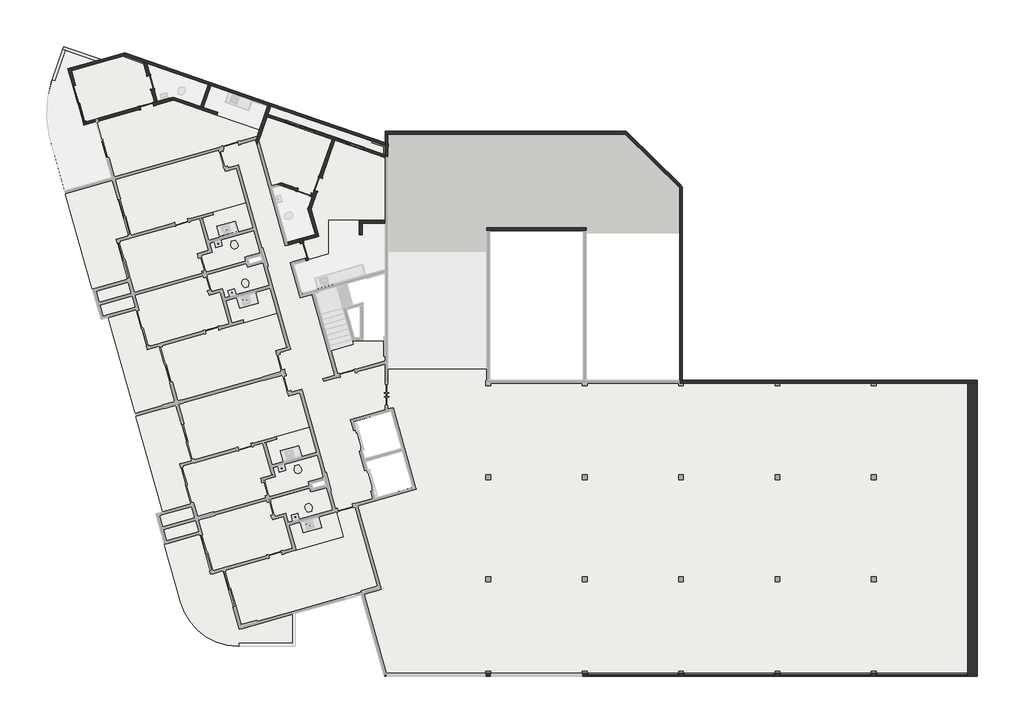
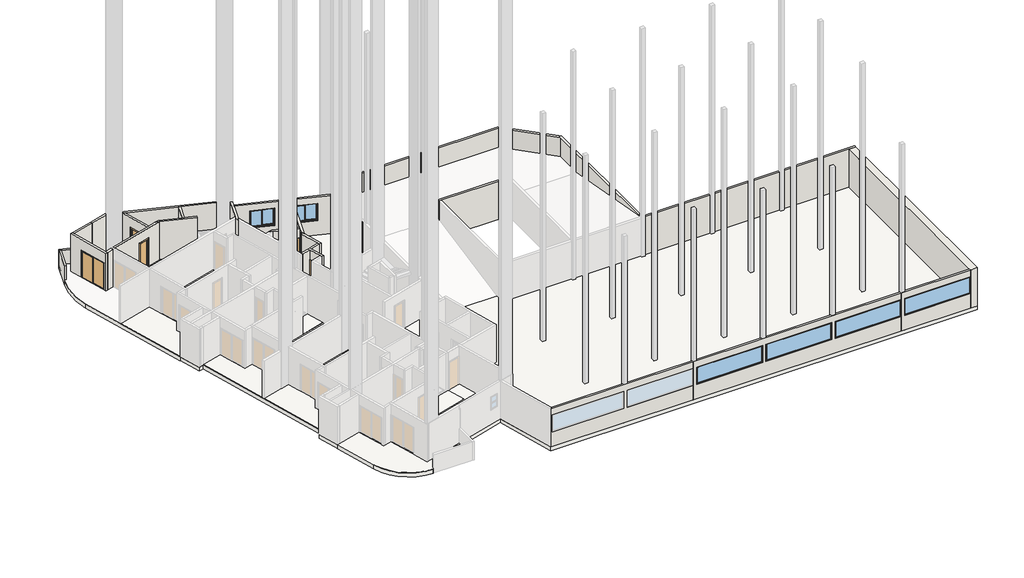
# One storey, part 3 of 4: 30 walls, 13 slabs, 6 doors, 6 windows.
"""IFC4 building model written with IfcOpenShell, lengths in millimetres."""

from ifc_helpers import new_model, si_unit, point, frame, frame_2d, origin, place, context, project, spatial, polyline, circle_curve, trimmed, segment, composite_curve, outline, extrude, faceted_brep, transform, mapped, element, save
from components import p2_80cm_9d4be4ef, p3_70cm_ef4d15e3, p3_70cm_0a698c7c, p4_correr_200cm_eaaa0877, jx_160cm_e9e36a0c, m_fixo1_jf_4_75m_a83b1cd6

model = new_model("IFC4")

# Units and contexts
model_context = context("Model", 3, world=origin())
ifc_project = project(units=[si_unit("LENGTHUNIT", "METRE", prefix="MILLI")], contexts=[model_context])

# Site, building, storey
site = spatial("IfcSite", under=ifc_project)
building = spatial("IfcBuilding", under=site)
storey = spatial("IfcBuildingStorey", under=building, Name="Garagem 5", Elevation=36250.0)

# Doors
placement = place(None, origin())
p2_80cm_shape = p2_80cm_9d4be4ef(model_context)
element("IfcDoor", 1, ObjectType="M_Folha única1 : P2 - 80CM", at=placement, inside=storey, context=model_context, shape_type="MappedRepresentation", body=[
    mapped(p2_80cm_shape, transform((-79349.4097406, 25479.1041247, 36250.0), x_axis=(-0.27176796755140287, 0.962362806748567, 0.0), y_axis=(-0.962362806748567, -0.27176796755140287, 0.0), z_axis=(0.0, 0.0, 1.0))),
])
p3_70cm_shape = p3_70cm_ef4d15e3(model_context)
element("IfcDoor", 2, ObjectType="M_Folha única1 : P3 - 70CM", at=placement, inside=storey, context=model_context, shape_type="MappedRepresentation", body=[
    mapped(p3_70cm_shape, transform((-87513.806232, 32980.5300491, 36250.0), x_axis=(0.9623628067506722, 0.2717679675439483, 0.0), y_axis=(-0.2717679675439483, 0.9623628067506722, 0.0), z_axis=(0.0, 0.0, 1.0))),
])
p3_70cm_2_shape = p3_70cm_0a698c7c(model_context)
element("IfcDoor", 3, ObjectType="M_Folha única1 : P3 - 70CM", at=placement, inside=storey, context=model_context, shape_type="MappedRepresentation", body=[
    mapped(p3_70cm_2_shape, transform((-87314.304722, 34205.8663896, 36250.0), x_axis=(-0.2717679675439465, 0.9623628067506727, 0.0), y_axis=(-0.9623628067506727, -0.2717679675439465, 0.0), z_axis=(0.0, 0.0, 1.0))),
])
element("IfcDoor", 4, ObjectType="M_Folha única1 : P3 - 70CM", at=placement, inside=storey, context=model_context, shape_type="MappedRepresentation", body=[
    mapped(p3_70cm_2_shape, transform((-79346.1223746, 28509.6973665, 36250.0), x_axis=(0.9449109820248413, -0.32732741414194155, 0.0), y_axis=(0.32732741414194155, 0.9449109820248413, 0.0), z_axis=(0.0, 0.0, 1.0))),
])
element("IfcDoor", 5, ObjectType="M_Folha única1 : P3 - 70CM", at=placement, inside=storey, context=model_context, shape_type="MappedRepresentation", body=[
    mapped(p3_70cm_2_shape, transform((-78626.5662556, 28921.8732895, 36250.0), x_axis=(-0.32732741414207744, -0.9449109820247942, 0.0), y_axis=(0.9449109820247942, -0.32732741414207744, 0.0), z_axis=(0.0, 0.0, 1.0))),
])
p4_correr_200cm_shape = p4_correr_200cm_eaaa0877(model_context)
element("IfcDoor", 6, ObjectType="Porta de correr dupla envidraçada sem revestimento : P4 - CORRER - 200CM", at=placement, inside=storey, context=model_context, shape_type="MappedRepresentation", body=[
    mapped(p4_correr_200cm_shape, transform((-91005.8131296, 33111.4415743, 36250.0), x_axis=(0.2717679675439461, -0.9623628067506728, 0.0), y_axis=(0.9623628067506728, 0.2717679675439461, 0.0), z_axis=(0.0, 0.0, 1.0))),
])

# Slabs
element("IfcSlab", 7, ObjectType="TZ_Piso de Áreas Molhadas", at=placement, inside=storey, context=model_context, shape_type="SweptSolid", body=[
    extrude(outline(polyline([(-88472.3695802, 26241.3805647), (-89094.084177, 26065.8104874), (-88509.7830468, 23996.7304529), (-90325.6378284, 23483.9392686), (-91725.2428613, 28440.1077234), (-89287.6734828, 29128.468985), (-88472.3695802, 26241.3805647)])), frame((0.0, 0.0, 36250.0), z_axis=(0.0, 0.0, 1.0), x_axis=(1.0, 0.0, 0.0)), (0.0, 0.0, 1.0), 20.0),
])
element("IfcSlab", 8, ObjectType="TZ_Piso de Áreas Molhadas", at=placement, inside=storey, context=model_context, shape_type="SweptSolid", body=[
    extrude(outline(polyline([(-86855.3501733, 20515.3218645), (-86040.0462707, 17628.2334443), (-88109.1263052, 17043.9323141), (-89508.731338, 22000.1007688), (-88061.3659003, 22408.8318218), (-87477.0647701, 20339.7517872), (-86855.3501733, 20515.3218645)])), frame((0.0, 0.0, 36250.0), z_axis=(0.0, 0.0, 1.0), x_axis=(1.0, 0.0, 0.0)), (0.0, 0.0, 1.0), 20.0),
])
element("IfcSlab", 9, ObjectType="TZ_Piso de Áreas Molhadas", at=placement, inside=storey, context=model_context, shape_type="SweptSolid", body=[
    extrude(outline(polyline([(-81949.8925784, 26524.6420501), (-81623.7710174, 25369.806682), (-82432.1557751, 25141.5215893), (-82377.8021816, 24949.0490279), (-84456.5058441, 24362.030218), (-84701.0970149, 25228.1567441), (-84123.6793309, 25391.2175246), (-84259.5633146, 25872.398928), (-81949.8925784, 26524.6420501)])), frame((0.0, 0.0, 36250.0), z_axis=(0.0, 0.0, 1.0), x_axis=(1.0, 0.0, 0.0)), (0.0, 0.0, 1.0), 20.0),
])
element("IfcSlab", 10, ObjectType="TZ_Piso de Áreas Molhadas", at=placement, inside=storey, context=model_context, shape_type="SweptSolid", body=[
    extrude(outline(polyline([(-84089.7975819, 27479.0039186), (-82357.5445298, 27968.1862602), (-81990.6577736, 26668.9964711), (-84300.3285098, 26016.753349), (-84626.4500708, 27171.5887171), (-84049.0323868, 27334.6494976), (-84089.7975819, 27479.0039186)])), frame((0.0, 0.0, 36250.0), z_axis=(0.0, 0.0, 1.0), x_axis=(1.0, 0.0, 0.0)), (0.0, 0.0, 1.0), 20.0),
])
element("IfcSlab", 11, ObjectType="TZ_Piso de Áreas Molhadas", at=placement, inside=storey, context=model_context, shape_type="SweptSolid", body=[
    extrude(outline(polyline([(-84171.1494782, 23351.5492709), (-84415.740649, 24217.675797), (-82337.0369864, 24804.6946069), (-82282.6833929, 24612.2220455), (-81474.2986352, 24840.5071383), (-81148.1770742, 23685.6717702), (-83457.8478104, 23033.4286481), (-83593.7317942, 23514.6100514), (-84171.1494782, 23351.5492709)])), frame((0.0, 0.0, 36250.0), z_axis=(0.0, 0.0, 1.0), x_axis=(1.0, 0.0, 0.0)), (0.0, 0.0, 1.0), 20.0),
])
element("IfcSlab", 12, ObjectType="TZ_Piso de Áreas Molhadas", at=placement, inside=storey, context=model_context, shape_type="SweptSolid", body=[
    extrude(outline(composite_curve([segment(polyline([(-79945.4990038, 5119.4122055), (-82713.5540687, 5119.4122055), (-82713.5540687, 4969.4122055), (-82751.3896972, 4969.4122055)]), True, "CONTINUOUS"), segment(trimmed(circle_curve(frame_2d((-82751.3896972, 8069.4122055)), 3100.0), [point((-82751.3896972, 4969.4122055))], [point((-85734.7143981, 7226.9315061))], False, "CARTESIAN"), True, "CONTINUOUS"), segment(polyline([(-85734.7143981, 7226.9315061), (-86588.8282733, 10251.4506708), (-84772.9735093, 10764.2419177), (-84188.6722855, 8695.1618243), (-83566.957766, 8870.7319029), (-82710.8885369, 5839.2889958), (-79945.4990038, 6620.2256515), (-79945.4990038, 5119.4122055)]), True, "CONTINUOUS")], self_intersect=False)), frame((0.0, 0.0, 36250.0), z_axis=(0.0, 0.0, 1.0), x_axis=(1.0, 0.0, 0.0)), (0.0, 0.0, 1.0), 20.0),
])
element("IfcSlab", 13, ObjectType="TZ_Piso de Áreas Molhadas", at=placement, inside=storey, context=model_context, shape_type="SweptSolid", body=[
    extrude(outline(polyline([(-78185.906228, 13195.9171766), (-77859.7846669, 12041.0818085), (-80169.4554031, 11388.8386864), (-80305.3393869, 11870.0200898), (-80882.7570709, 11706.9593092), (-81127.3482417, 12573.0858353), (-79048.6445791, 13160.1046452), (-78994.2909856, 12967.6320839), (-78185.906228, 13195.9171766)])), frame((0.0, 0.0, 36250.0), z_axis=(0.0, 0.0, 1.0), x_axis=(1.0, 0.0, 0.0)), (0.0, 0.0, 1.0), 20.0),
])
element("IfcSlab", 14, ObjectType="TZ_Piso de Áreas Molhadas", at=placement, inside=storey, context=model_context, shape_type="SweptSolid", body=[
    extrude(outline(polyline([(-77307.7782946, 10638.3027935), (-79761.8034518, 9945.2944763), (-80128.690208, 11244.4842654), (-77674.6650508, 11937.4925826), (-77307.7782946, 10638.3027935)])), frame((0.0, 0.0, 36250.0), z_axis=(0.0, 0.0, 1.0), x_axis=(1.0, 0.0, 0.0)), (0.0, 0.0, 1.0), 20.0),
])
element("IfcSlab", 15, ObjectType="TZ_Piso de Áreas Molhadas", at=placement, inside=storey, context=model_context, shape_type="SweptSolid", body=[
    extrude(outline(polyline([(-81107.9410005, 23543.1910314), (-80740.5251229, 22242.1275601), (-82472.778175, 21752.9452185), (-82513.5433702, 21897.2996395), (-83090.9610542, 21734.238859), (-83418.0192411, 22888.8089065), (-81107.9410005, 23543.1910314)])), frame((0.0, 0.0, 36250.0), z_axis=(0.0, 0.0, 1.0), x_axis=(1.0, 0.0, 0.0)), (0.0, 0.0, 1.0), 20.0),
])
element("IfcSlab", 16, ObjectType="TZ_Piso de Áreas Molhadas", at=placement, inside=storey, context=model_context, shape_type="SweptSolid", body=[
    extrude(outline(polyline([(-85183.9771729, 14596.790603), (-85805.6917697, 14421.2205257), (-85221.3906395, 12352.1404912), (-86668.7560772, 11943.4094383), (-88068.36111, 16899.5778931), (-85999.2810755, 17483.8790233), (-85183.9771729, 14596.790603)])), frame((0.0, 0.0, 36250.0), z_axis=(0.0, 0.0, 1.0), x_axis=(1.0, 0.0, 0.0)), (0.0, 0.0, 1.0), 20.0),
])
element("IfcSlab", 17, ObjectType="TZ_Piso de Áreas Molhadas", at=placement, inside=storey, context=model_context, shape_type="SweptSolid", body=[
    extrude(outline(polyline([(-81412.7046076, 13583.5667824), (-80835.2869236, 13746.6275629), (-80971.1709074, 14227.8089663), (-78661.5001712, 14880.0520884), (-78335.3786101, 13725.2167203), (-79143.7633678, 13496.9316276), (-79089.4097743, 13304.4590662), (-81168.1134368, 12717.4402563), (-81412.7046076, 13583.5667824)])), frame((0.0, 0.0, 36250.0), z_axis=(0.0, 0.0, 1.0), x_axis=(1.0, 0.0, 0.0)), (0.0, 0.0, 1.0), 20.0),
])
element("IfcSlab", 18, ObjectType="TZ_Piso de Áreas Molhadas", at=placement, inside=storey, context=model_context, shape_type="SweptSolid", body=[
    extrude(outline(polyline([(-78701.7362448, 15022.5328272), (-81012.8731576, 14371.8995868), (-81338.0576635, 15526.9987554), (-80760.6399795, 15690.059536), (-80801.4051746, 15834.413957), (-79069.1521225, 16323.5962985), (-78701.7362448, 15022.5328272)])), frame((0.0, 0.0, 36250.0), z_axis=(0.0, 0.0, 1.0), x_axis=(1.0, 0.0, 0.0)), (0.0, 0.0, 1.0), 20.0),
])
element("IfcSlab", 19, ObjectType="TZ_Laje 30cm", at=placement, inside=storey, context=model_context, shape_type="SweptSolid", body=[
    extrude(outline(composite_curve([segment(polyline([(-82713.5540687, 4969.4122055), (-82751.3896972, 4969.4122055)]), True, "CONTINUOUS"), segment(trimmed(circle_curve(frame_2d((-82751.3896972, 8069.4122055)), 3100.0), [point((-82751.3896972, 4969.4122055))], [point((-85734.7143981, 7226.9315061))], False, "CARTESIAN"), True, "CONTINUOUS"), segment(polyline([(-85734.7143981, 7226.9315061), (-86588.8282747, 10251.4506758), (-86574.3928326, 10255.5271953), (-87018.7334595, 11828.9903844), (-86664.6795577, 11928.9739962), (-89512.8078575, 22014.5362109), (-89866.8617594, 21914.5525991), (-90311.2023863, 23488.0157882), (-90325.6378284, 23483.9392686), (-92573.2320087, 31442.9384962)]), True, "CONTINUOUS"), segment(trimmed(circle_curve(frame_2d((-87414.5556743, 32622.5665107)), 5291.829908), [point((-92573.2320087, 31442.9384962))], [point((-92426.4466323, 34320.9224218))], False, "CARTESIAN"), True, "CONTINUOUS"), segment(polyline([(-92426.4466323, 34320.9224218), (-92422.0160621, 34333.7123509), (-92403.1178425, 34327.1658026), (-91809.986912, 36039.3839237), (-89899.2062586, 35377.468778), (-88658.6666899, 35727.7929124), (-75015.5036183, 31001.6532295), (-75015.5036183, 19352.5140353), (-69748.6137209, 19352.5140353), (-69748.6137209, 18732.5140353), (-44448.6137209, 18732.5140353), (-44448.6137209, 3431.0495751), (-75180.5270822, 3431.0495751), (-76371.9880656, 7650.1551103), (-79815.4990038, 6677.7193903), (-79815.4990038, 4989.4122055), (-82713.5540687, 4989.4122055), (-82713.5540687, 4969.4122055)]), True, "CONTINUOUS")], self_intersect=False), holes=[polyline([(-81583.0058223, 25225.452261), (-82247.0361589, 25037.9323634), (-82179.094167, 24797.3416617), (-81515.0638304, 24984.8615593), (-81583.0058223, 25225.452261)]), polyline([(-78294.613415, 13580.8622993), (-78958.6437516, 13393.3424017), (-78890.7017597, 13152.7517), (-78226.6714231, 13340.2715976), (-78294.613415, 13580.8622993)]), polyline([(-77952.9130698, 20291.1915783), (-76801.2963825, 20616.4041949), (-76858.5413412, 20819.1154254), (-75147.8282189, 20819.1154254), (-75147.8282189, 24343.0530162), (-78807.9060206, 23309.4595541), (-77952.9130698, 20291.1915783)]), polyline([(-74840.4856705, 17153.3066079), (-76760.3994699, 16611.1295126), (-76221.8794944, 14704.1660107), (-75646.150803, 12665.442005), (-73726.2370035, 13207.6191002), (-74270.7319215, 15135.7405865), (-74840.4856705, 17153.3066079)])]), frame((0.0, 0.0, 35950.0), z_axis=(0.0, 0.0, 1.0), x_axis=(1.0, 0.0, 0.0)), (0.0, 0.0, 1.0), 300.0),
])

# Walls
element("IfcWall", 20, ObjectType="Básica .15 - Externa", at=placement, inside=storey, context=model_context, shape_type="Brep", body=[
    faceted_brep([(-88662.6343714, 35591.588263, 36250.0), (-87688.240739, 35254.0477389, 36250.0), (-87515.4733556, 35194.1992432, 36250.0), (-84326.6881589, 34089.5694606, 36250.0), (-84184.9515116, 34040.4703485, 36250.0), (-81227.2140767, 33015.8780168, 36250.0), (-81226.8582774, 33015.7547641, 36250.0), (-81156.3583355, 32991.3328194, 36250.0), (-81156.3583355, 32991.3328194, 37550.0), (-81085.1216301, 32966.655652, 37550.0), (-81085.1216301, 32966.655652, 38850.0), (-81156.3583355, 32991.3328194, 38850.0), (-81156.3583355, 32991.3328194, 39150.0), (-81226.8582774, 33015.7547641, 39150.0), (-84184.9515116, 34040.4703485, 39150.0), (-84326.6881589, 34089.5694606, 39150.0), (-87515.4733556, 35194.1992432, 39150.0), (-87688.240739, 35254.0477389, 39150.0), (-88662.6343714, 35591.588263, 39150.0), (-88658.0562773, 35748.7474739, 36250.0), (-88658.0562773, 35748.7474739, 39150.0), (-81107.2592234, 33133.0694667, 39150.0), (-81107.2592234, 33133.0694667, 38850.0), (-81036.022518, 33108.3922993, 38850.0), (-81036.022518, 33108.3922993, 37550.0), (-81107.2592234, 33133.0694667, 37550.0), (-81107.2592234, 33133.0694667, 36250.0), (-81178.1401317, 33157.6233823, 36250.0)], [[[0, 1, 2, 3, 4, 5, 6, 7, 8, 9, 10, 11, 12, 13, 14, 15, 16, 17, 18]], [[19, 20, 21, 22, 23, 24, 25, 26, 27]], [[7, 6, 5, 4, 3, 2, 1, 0, 19, 27, 26]], [[18, 17, 16, 15, 14, 13, 12, 21, 20]], [[0, 18, 20, 19]], [[8, 7, 26, 25]], [[24, 9, 8, 25]], [[12, 11, 22, 21]], [[22, 11, 10, 23]], [[10, 9, 24, 23]]]),
])
element("IfcWall", 21, ObjectType="Básica .15 -  Interna", at=placement, inside=storey, context=model_context, shape_type="Brep", body=[
    faceted_brep([(-81789.2550074, 30934.0017027, 36250.0), (-81703.3880158, 31181.8778654, 36250.0), (-81272.8781344, 32424.6503839, 36250.0), (-81223.7790223, 32566.3870312, 36250.0), (-81085.1216301, 32966.655652, 36250.0), (-81085.1216301, 32966.655652, 37550.0), (-81085.1216301, 32966.655652, 38850.0), (-81085.1216301, 32966.655652, 39150.0), (-81223.7790223, 32566.3870312, 39150.0), (-81272.8781344, 32424.6503839, 39150.0), (-81703.3880158, 31181.8778654, 39150.0), (-81789.2550074, 30934.0017027, 39150.0), (-81860.5472267, 31186.4559595, 36250.0), (-81860.5472267, 31186.4559595, 39150.0), (-81845.4155775, 31230.1371819, 39150.0), (-81785.5670817, 31402.9045654, 39150.0), (-81226.8582774, 33015.7547641, 39150.0), (-81226.8582774, 33015.7547641, 36250.0), (-81785.5670817, 31402.9045654, 36250.0), (-81845.4155775, 31230.1371819, 36250.0), (-81156.3583355, 32991.3328194, 36250.0), (-81085.4774271, 32966.7789039, 36250.0), (-81156.3583355, 32991.3328194, 39150.0)], [[[0, 1, 2, 3, 4, 5, 6, 7, 8, 9, 10, 11]], [[12, 13, 14, 15, 16, 17, 18, 19]], [[4, 3, 2, 1, 0, 12, 19, 18, 17, 20, 21]], [[11, 10, 9, 8, 7, 22, 16, 15, 14, 13]], [[0, 11, 13, 12]], [[4, 21, 20, 17, 16, 22, 7, 6, 5]]]),
])
element("IfcWall", 22, ObjectType="Básica .15 -  Interna", at=placement, inside=storey, context=model_context, shape_type="Brep", body=[
    faceted_brep([(-91449.9950574, 34960.3135045, 39150.0), (-91409.2298622, 34815.9590835, 39150.0), (-90661.8679515, 32169.4613651, 39150.0), (-90621.1027564, 32025.1069441, 39150.0), (-90621.1027564, 32025.1069441, 36250.0), (-90661.8679515, 32169.4613651, 36250.0), (-90661.8679515, 32169.4613651, 38350.0), (-91205.4038866, 34094.1869786, 38350.0), (-91205.4038866, 34094.1869786, 36250.0), (-91409.2298622, 34815.9590835, 36250.0), (-91449.9950574, 34960.3135045, 36250.0), (-90765.4571774, 31984.341749, 39150.0), (-91594.3494784, 34919.5483093, 39150.0), (-91594.3494784, 34919.5483093, 36250.0), (-91349.7583076, 34053.4217835, 36250.0), (-91349.7583076, 34053.4217835, 38350.0), (-90806.2223725, 32128.69617, 38350.0), (-90806.2223725, 32128.69617, 36250.0), (-90765.4571774, 31984.341749, 36250.0)], [[[0, 1, 2, 3, 4, 5, 6, 7, 8, 9, 10]], [[11, 12, 13, 14, 15, 16, 17, 18]], [[4, 18, 17, 5]], [[13, 10, 9, 8, 14]], [[3, 2, 1, 0, 12, 11]], [[4, 3, 11, 18]], [[16, 6, 5, 17]], [[6, 16, 15, 7]], [[7, 15, 14, 8]], [[0, 10, 13, 12]]]),
])
element("IfcWall", 23, ObjectType="Básica .15 - Externa", at=placement, inside=storey, context=model_context, shape_type="Brep", body=[
    faceted_brep([(-91871.4376954, 35923.0920443, 35950.0), (-91729.7010481, 35873.9929322, 35950.0), (-90151.0501028, 35327.1311202, 35950.0), (-90151.0501028, 35327.1311202, 37350.0), (-91729.7010481, 35873.9929322, 37350.0), (-91871.4376954, 35923.0920443, 37350.0), (-91822.3385833, 36064.8286916, 35950.0), (-91822.3385833, 36064.8286916, 37350.0), (-89898.595846, 35398.4233395, 37350.0), (-89898.595846, 35398.4233395, 35950.0)], [[[0, 1, 2, 3, 4, 5]], [[6, 7, 8, 9]], [[2, 1, 0, 6, 9]], [[5, 4, 3, 8, 7]], [[0, 5, 7, 6]], [[3, 2, 9, 8]]]),
])
element("IfcWall", 24, ObjectType="Básica .15 - Externa", at=placement, inside=storey, context=model_context, shape_type="SweptSolid", body=[
    extrude(outline(polyline([(-91729.7010481, 35873.9929322), (-92280.2794148, 34284.6132387), (-92422.0160621, 34333.7123509), (-91871.4376954, 35923.0920443), (-91729.7010481, 35873.9929322)])), frame((0.0, 0.0, 35950.0), z_axis=(0.0, 0.0, 1.0), x_axis=(1.0, 0.0, 0.0)), (0.0, 0.0, 1.0), 1400.0),
])
element("IfcWall", 25, ObjectType="Básica .15 -  Interna", at=placement, inside=storey, context=model_context, shape_type="Brep", body=[
    faceted_brep([(-79598.23613, 26084.2573515, 36250.0), (-79557.4709349, 25939.9029305, 36250.0), (-79530.2941381, 25843.6666498, 36250.0), (-79530.2941381, 25843.6666498, 38350.0), (-79312.8797641, 25073.7764044, 38350.0), (-79312.8797641, 25073.7764044, 36250.0), (-79272.1145689, 24929.4219834, 36250.0), (-79272.1145689, 24929.4219834, 39150.0), (-79312.8797641, 25073.7764044, 39150.0), (-79557.4709349, 25939.9029305, 39150.0), (-79598.23613, 26084.2573515, 39150.0), (-79385.9397171, 25884.4318449, 38350.0), (-79385.9397171, 25884.4318449, 36250.0), (-79413.1165138, 25980.6681256, 36250.0), (-79453.881709, 26125.0225466, 36250.0), (-79453.881709, 26125.0225466, 39150.0), (-79413.1165138, 25980.6681256, 39150.0), (-79127.7601479, 24970.1871785, 39150.0), (-79127.7601479, 24970.1871785, 36250.0), (-79168.5253431, 25114.5415995, 36250.0), (-79168.5253431, 25114.5415995, 38350.0)], [[[0, 1, 2, 3, 4, 5, 6, 7, 8, 9, 10]], [[11, 12, 13, 14, 15, 16, 17, 18, 19, 20]], [[19, 18, 6, 5]], [[14, 13, 12, 2, 1, 0]], [[10, 9, 8, 7, 17, 16, 15]], [[7, 6, 18, 17]], [[0, 10, 15, 14]], [[3, 2, 12, 11]], [[4, 3, 11, 20]], [[5, 4, 20, 19]]]),
])
element("IfcWall", 26, ObjectType="Básica .15 - Externa", at=placement, inside=storey, context=model_context, shape_type="SweptSolid", body=[
    extrude(outline(polyline([(-89921.2674906, 35392.0209445), (-88658.0562773, 35748.7474739), (-88662.6343714, 35591.588263), (-89880.5022955, 35247.6665235), (-89921.2674906, 35392.0209445)])), frame((0.0, 0.0, 36250.0), z_axis=(0.0, 0.0, 1.0), x_axis=(1.0, 0.0, 0.0)), (0.0, 0.0, 1.0), 2900.0),
])
element("IfcWall", 27, ObjectType="Básica .15 -  Interna", at=placement, inside=storey, context=model_context, shape_type="Brep", body=[
    faceted_brep([(-90184.5077758, 32304.2662473, 36250.0), (-90661.8679515, 32169.4613651, 36250.0), (-90661.8679515, 32169.4613651, 38350.0), (-90661.8679515, 32169.4613651, 39150.0), (-90184.5077758, 32304.2662473, 39150.0), (-90143.7425806, 32159.9118263, 36250.0), (-90143.7425806, 32159.9118263, 38350.0), (-90143.7425806, 32159.9118263, 39150.0), (-90621.1027564, 32025.1069441, 39150.0), (-90621.1027564, 32025.1069441, 36250.0)], [[[0, 1, 2, 3, 4]], [[5, 6, 7, 8, 9]], [[1, 0, 5, 9]], [[4, 3, 8, 7]], [[0, 4, 7, 6, 5]], [[3, 2, 1, 9, 8]]]),
])
element("IfcWall", 28, ObjectType="Básica .15 -  Interna", at=placement, inside=storey, context=model_context, shape_type="SweptSolid", body=[
    extrude(outline(polyline([(-79557.4709349, 25939.9029305), (-80173.9123452, 25765.821983), (-80214.6775403, 25910.176404), (-79598.23613, 26084.2573515), (-79557.4709349, 25939.9029305)])), frame((0.0, 0.0, 36250.0), z_axis=(0.0, 0.0, 1.0), x_axis=(1.0, 0.0, 0.0)), (0.0, 0.0, 1.0), 2900.0),
])
element("IfcWall", 29, ObjectType="Básica .15 -  Interna", at=placement, inside=storey, context=model_context, shape_type="Brep", body=[
    faceted_brep([(-81272.8781344, 32424.6503839, 36250.0), (-77897.5766162, 31255.4093243, 36250.0), (-77755.8399689, 31206.3102121, 36250.0), (-75147.8282189, 30302.8666514, 36250.0), (-75147.8282189, 30302.8666514, 39150.0), (-77755.8399689, 31206.3102121, 39150.0), (-77897.5766162, 31255.4093243, 39150.0), (-81272.8781344, 32424.6503839, 39150.0), (-78829.2985897, 31578.1679228, 37350.0), (-80341.1561609, 32101.8917854, 37350.0), (-80341.1561609, 32101.8917854, 38650.0), (-78829.2985897, 31578.1679228, 38650.0), (-76243.9823976, 30682.5863495, 37350.0), (-77755.8399689, 31206.3102121, 37350.0), (-77755.8399689, 31206.3102121, 38650.0), (-76243.9823976, 30682.5863495, 38650.0), (-81223.7790223, 32566.3870312, 36250.0), (-81223.7790223, 32566.3870312, 39150.0), (-75147.8282189, 30461.6117638, 39150.0), (-75147.8282189, 30461.6117638, 36250.0), (-78780.1994776, 31719.9045701, 37350.0), (-78780.1994776, 31719.9045701, 38650.0), (-80292.0570488, 32243.6284327, 38650.0), (-80292.0570488, 32243.6284327, 37350.0), (-76194.8832855, 30824.3229968, 37350.0), (-76194.8832855, 30824.3229968, 38650.0), (-77706.7408568, 31348.0468595, 38650.0), (-77706.7408568, 31348.0468595, 37350.0), (-75147.8282189, 30356.258394, 36250.0), (-75147.8282189, 30356.258394, 39150.0)], [[[0, 1, 2, 3, 4, 5, 6, 7], [8, 9, 10, 11], [12, 13, 14, 15]], [[16, 17, 18, 19], [20, 21, 22, 23], [24, 25, 26, 27]], [[3, 2, 1, 0, 16, 19, 28]], [[7, 6, 5, 4, 29, 18, 17]], [[0, 7, 17, 16]], [[21, 20, 8, 11]], [[22, 21, 11, 10]], [[23, 22, 10, 9]], [[20, 23, 9, 8]], [[25, 24, 12, 15]], [[26, 25, 15, 14]], [[27, 26, 14, 13]], [[24, 27, 13, 12]], [[4, 3, 28, 19, 18, 29]]]),
])
element("IfcWall", 30, ObjectType="Básica .15 - Externa", at=placement, inside=storey, context=model_context, shape_type="Brep", body=[
    faceted_brep([(-81227.2140767, 33015.8780168, 35950.0), (-81085.4774271, 32966.7789039, 35950.0), (-75146.0514969, 30909.2973334, 35950.0), (-74996.0514969, 30857.3357063, 35950.0), (-74996.0514969, 30857.3357063, 36250.0), (-74996.0514969, 30857.3357063, 37550.0), (-81085.1216301, 32966.655652, 37550.0), (-81156.3583355, 32991.3328194, 37550.0), (-81156.3583355, 32991.3328194, 36250.0), (-81227.2140767, 33015.8780168, 36250.0), (-81178.1401317, 33157.6233823, 35950.0), (-81178.1401317, 33157.6233823, 36250.0), (-81107.2592234, 33133.0694667, 36250.0), (-81107.2592234, 33133.0694667, 37550.0), (-81036.022518, 33108.3922993, 37550.0), (-74996.0514969, 31016.0808187, 37550.0), (-74996.0514969, 31016.0808187, 35950.0), (-75146.0514969, 31068.0424458, 35950.0)], [[[0, 1, 2, 3, 4, 5, 6, 7, 8, 9]], [[10, 11, 12, 13, 14, 15, 16, 17]], [[3, 2, 1, 0, 10, 17, 16]], [[7, 6, 5, 15, 14, 13]], [[5, 4, 3, 16, 15]], [[8, 7, 13, 12]], [[8, 12, 11, 9]], [[0, 9, 11, 10]]]),
])
element("IfcWall", 31, ObjectType="Básica .15 -  Interna", at=placement, inside=storey, context=model_context, shape_type="SweptSolid", body=[
    extrude(outline(polyline([(-91449.9950574, 34960.3135045), (-89921.2674906, 35392.0209445), (-89880.5022955, 35247.6665235), (-91409.2298622, 34815.9590835), (-91449.9950574, 34960.3135045)])), frame((0.0, 0.0, 36250.0), z_axis=(0.0, 0.0, 1.0), x_axis=(1.0, 0.0, 0.0)), (0.0, 0.0, 1.0), 2900.0),
])
element("IfcWall", 32, ObjectType="Básica .15 -  Interna", at=placement, inside=storey, context=model_context, shape_type="Brep", body=[
    faceted_brep([(-83821.815623, 32644.7152387, 36250.0), (-84577.7444086, 32906.57717, 36250.0), (-84719.4810559, 32955.6762822, 36250.0), (-86137.8721095, 33447.0223292, 36250.0), (-86137.8721095, 33447.0223292, 39150.0), (-84719.4810559, 32955.6762822, 39150.0), (-84577.7444086, 32906.57717, 39150.0), (-83821.815623, 32644.7152387, 39150.0), (-83870.9147351, 32502.9785914, 36250.0), (-83870.9147351, 32502.9785914, 39150.0), (-86142.4502035, 33289.8631183, 39150.0), (-86390.3263662, 33375.7301099, 39150.0), (-86390.3263662, 33375.7301099, 36250.0), (-86142.4502035, 33289.8631183, 36250.0)], [[[0, 1, 2, 3, 4, 5, 6, 7]], [[8, 9, 10, 11, 12, 13]], [[3, 2, 1, 0, 8, 13, 12]], [[7, 6, 5, 4, 11, 10, 9]], [[0, 7, 9, 8]], [[4, 3, 12, 11]]]),
])
element("IfcWall", 33, ObjectType="Básica .15 -  Interna", at=placement, inside=storey, context=model_context, shape_type="Brep", body=[
    faceted_brep([(-86390.3263662, 33375.7301099, 36250.0), (-86956.7711455, 33215.7680402, 36250.0), (-87101.1255666, 33175.002845, 36250.0), (-87197.3618472, 33147.8260483, 36250.0), (-87197.3618472, 33147.8260483, 38350.0), (-87871.015812, 32957.588471, 38350.0), (-87871.015812, 32957.588471, 36250.0), (-90040.1533547, 32345.0314424, 36250.0), (-90040.1533547, 32345.0314424, 39150.0), (-87101.1255666, 33175.002845, 39150.0), (-86956.7711455, 33215.7680402, 39150.0), (-86390.3263662, 33375.7301099, 39150.0), (-87156.5966521, 33003.4716273, 38350.0), (-87156.5966521, 33003.4716273, 36250.0), (-86142.4502035, 33289.8631183, 36250.0), (-86142.4502035, 33289.8631183, 39150.0), (-89999.3881596, 32200.6770214, 39150.0), (-89999.3881596, 32200.6770214, 38350.0), (-89999.3881596, 32200.6770214, 36250.0), (-87830.2506168, 32813.23405, 36250.0), (-87830.2506168, 32813.23405, 38350.0)], [[[0, 1, 2, 3, 4, 5, 6, 7, 8, 9, 10, 11]], [[12, 13, 14, 15, 16, 17, 18, 19, 20]], [[19, 18, 7, 6]], [[14, 13, 3, 2, 1, 0]], [[11, 10, 9, 8, 16, 15]], [[4, 3, 13, 12]], [[5, 4, 12, 20]], [[6, 5, 20, 19]], [[0, 11, 15, 14]], [[8, 7, 18, 17, 16]]]),
])
element("IfcWall", 34, ObjectType="Básica .15 -  Interna", at=placement, inside=storey, context=model_context, shape_type="SweptSolid", body=[
    extrude(outline(polyline([(-84184.9515116, 34040.4703485), (-84577.7444086, 32906.57717), (-84719.4810559, 32955.6762822), (-84326.6881589, 34089.5694606), (-84184.9515116, 34040.4703485)])), frame((0.0, 0.0, 36250.0), z_axis=(0.0, 0.0, 1.0), x_axis=(1.0, 0.0, 0.0)), (0.0, 0.0, 1.0), 2900.0),
])
element("IfcWall", 35, ObjectType="Básica .15 -  Interna", at=placement, inside=storey, context=model_context, shape_type="Brep", body=[
    faceted_brep([(-87337.2463001, 34563.0759696, 38350.0), (-87337.2463001, 34563.0759696, 36250.0), (-87515.4733556, 35194.1992432, 36250.0), (-87515.4733556, 35194.1992432, 39150.0), (-86956.7711455, 33215.7680402, 39150.0), (-86956.7711455, 33215.7680402, 36250.0), (-87147.0087228, 33889.4220048, 36250.0), (-87147.0087228, 33889.4220048, 38350.0), (-87688.240739, 35254.0477389, 36250.0), (-87481.6007211, 34522.3107744, 36250.0), (-87481.6007211, 34522.3107744, 38350.0), (-87291.3631438, 33848.6568097, 38350.0), (-87291.3631438, 33848.6568097, 36250.0), (-87101.1255666, 33175.002845, 36250.0), (-87101.1255666, 33175.002845, 39150.0), (-87688.240739, 35254.0477389, 39150.0)], [[[0, 1, 2, 3, 4, 5, 6, 7]], [[8, 9, 10, 11, 12, 13, 14, 15]], [[6, 5, 13, 12]], [[2, 1, 9, 8]], [[4, 3, 15, 14]], [[10, 9, 1, 0]], [[11, 10, 0, 7]], [[12, 11, 7, 6]], [[5, 4, 14, 13]], [[3, 2, 8, 15]]]),
])
element("IfcWall", 36, ObjectType="Básica .15 -  Interna", at=placement, inside=storey, context=model_context, shape_type="Brep", body=[
    faceted_brep([(-76493.6479314, 26910.8243598, 36250.0), (-76343.6479314, 26910.8243598, 36250.0), (-75147.8282189, 26910.8243598, 36250.0), (-75147.8282189, 26910.8243598, 39150.0), (-76343.6479314, 26910.8243598, 39150.0), (-76493.6479314, 26910.8243598, 39150.0), (-76493.6479314, 27060.8243598, 36250.0), (-76493.6479314, 27060.8243598, 39150.0), (-75147.8282189, 27060.8243598, 39150.0), (-75147.8282189, 27060.8243598, 36250.0)], [[[0, 1, 2, 3, 4, 5]], [[6, 7, 8, 9]], [[2, 1, 0, 6, 9]], [[5, 4, 3, 8, 7]], [[0, 5, 7, 6]], [[3, 2, 9, 8]]]),
])
element("IfcWall", 37, ObjectType="Básica .15 -  Interna", at=placement, inside=storey, context=model_context, shape_type="SweptSolid", body=[
    extrude(outline(polyline([(-76343.6479314, 26910.8243598), (-76343.6479314, 26310.8243598), (-76493.6479314, 26310.8243598), (-76493.6479314, 26910.8243598), (-76343.6479314, 26910.8243598)])), frame((0.0, 0.0, 36250.0), z_axis=(0.0, 0.0, 1.0), x_axis=(1.0, 0.0, 0.0)), (0.0, 0.0, 1.0), 2900.0),
])
element("IfcWall", 38, ObjectType="Básica .15 -  Interna", at=placement, inside=storey, context=model_context, shape_type="Brep", body=[
    faceted_brep([(-78877.464657, 28426.7218055, 36250.0), (-78990.8539749, 28466.0010952, 36250.0), (-78990.8539749, 28466.0010952, 38350.0), (-79652.2916623, 28695.1302851, 38350.0), (-79652.2916623, 28695.1302851, 36250.0), (-80525.6718652, 28997.6786614, 36250.0), (-80525.6718652, 28997.6786614, 39150.0), (-78877.464657, 28426.7218055, 39150.0), (-79039.953087, 28324.2644479, 38350.0), (-79039.953087, 28324.2644479, 36250.0), (-78926.5637691, 28284.9851582, 36250.0), (-78926.5637691, 28284.9851582, 39150.0), (-80530.2499593, 28840.5194505, 39150.0), (-80778.126122, 28926.3864421, 39150.0), (-80778.126122, 28926.3864421, 36250.0), (-80530.2499593, 28840.5194505, 36250.0), (-79701.3907744, 28553.3936378, 36250.0), (-79701.3907744, 28553.3936378, 38350.0)], [[[0, 1, 2, 3, 4, 5, 6, 7]], [[8, 9, 10, 11, 12, 13, 14, 15, 16, 17]], [[10, 9, 1, 0]], [[16, 15, 14, 5, 4]], [[7, 6, 13, 12, 11]], [[2, 1, 9, 8]], [[3, 2, 8, 17]], [[4, 3, 17, 16]], [[6, 5, 14, 13]], [[0, 7, 11, 10]]]),
])
element("IfcWall", 39, ObjectType="Básica .15 -  Interna", at=placement, inside=storey, context=model_context, shape_type="Brep", body=[
    faceted_brep([(-79146.9727346, 27648.7205404, 36250.0), (-78771.1333302, 26317.8283554, 36250.0), (-78730.3681351, 26173.4739343, 36250.0), (-78730.3681351, 26173.4739343, 39150.0), (-78771.1333302, 26317.8283554, 39150.0), (-79146.9727346, 27648.7205404, 39150.0), (-79061.105743, 27896.5967032, 36250.0), (-79061.105743, 27896.5967032, 39150.0), (-78989.8135237, 27644.1424464, 39150.0), (-78586.013714, 26214.2391295, 39150.0), (-78586.013714, 26214.2391295, 36250.0), (-78989.8135237, 27644.1424464, 36250.0)], [[[0, 1, 2, 3, 4, 5]], [[6, 7, 8, 9, 10, 11]], [[2, 1, 0, 6, 11, 10]], [[5, 4, 3, 9, 8, 7]], [[0, 5, 7, 6]], [[3, 2, 10, 9]]]),
])
element("IfcWall", 40, ObjectType="Básica .15 -  Interna", at=placement, inside=storey, context=model_context, shape_type="Brep", body=[
    faceted_brep([(-78811.9991742, 28615.7040019, 38350.0), (-78811.9991742, 28615.7040019, 36250.0), (-78877.464657, 28426.7218055, 36250.0), (-78926.5637691, 28284.9851582, 36250.0), (-79061.105743, 27896.5967032, 36250.0), (-79061.105743, 27896.5967032, 39150.0), (-78926.5637691, 28284.9851582, 39150.0), (-78877.464657, 28426.7218055, 39150.0), (-77897.5766162, 31255.4093243, 39150.0), (-77897.5766162, 31255.4093243, 36250.0), (-78582.8699843, 29277.1416893, 36250.0), (-78582.8699843, 29277.1416893, 38350.0), (-78989.8135237, 27644.1424464, 36250.0), (-78670.2625269, 28566.6048898, 36250.0), (-78670.2625269, 28566.6048898, 38350.0), (-78441.133337, 29228.0425772, 38350.0), (-78441.133337, 29228.0425772, 36250.0), (-77755.8399689, 31206.3102121, 36250.0), (-77755.8399689, 31206.3102121, 37350.0), (-77755.8399689, 31206.3102121, 38650.0), (-77755.8399689, 31206.3102121, 39150.0), (-78989.8135237, 27644.1424464, 39150.0)], [[[0, 1, 2, 3, 4, 5, 6, 7, 8, 9, 10, 11]], [[12, 13, 14, 15, 16, 17, 18, 19, 20, 21]], [[10, 9, 17, 16]], [[4, 3, 2, 1, 13, 12]], [[8, 7, 6, 5, 21, 20]], [[14, 13, 1, 0]], [[15, 14, 0, 11]], [[16, 15, 11, 10]], [[5, 4, 12, 21]], [[9, 8, 20, 19, 18, 17]]]),
])
element("IfcWall", 41, ObjectType="Básica .15 -  Interna", at=placement, inside=storey, context=model_context, shape_type="SweptSolid", body=[
    extrude(outline(polyline([(-78730.3681351, 26173.4739343), (-79413.1165138, 25980.6681256), (-79453.881709, 26125.0225466), (-78771.1333302, 26317.8283554), (-78730.3681351, 26173.4739343)])), frame((0.0, 0.0, 36250.0), z_axis=(0.0, 0.0, 1.0), x_axis=(1.0, 0.0, 0.0)), (0.0, 0.0, 1.0), 2900.0),
])
element("IfcWall", 42, ObjectType="Básica .15 - Externa", at=placement, inside=storey, context=model_context, shape_type="Brep", body=[
    faceted_brep([(-75195.6613336, 3411.0495751, 36250.0), (-44928.6137209, 3411.0495751, 36250.0), (-44928.6137209, 3411.0495751, 37350.0), (-49675.8696428, 3411.0495751, 37350.0), (-49675.8696428, 3411.0495751, 38650.0), (-44928.6137209, 3411.0495751, 38650.0), (-44928.6137209, 3411.0495751, 39150.0), (-75195.6613336, 3411.0495751, 39150.0), (-49925.8696428, 3411.0495751, 37350.0), (-54675.8696428, 3411.0495751, 37350.0), (-54675.8696428, 3411.0495751, 38650.0), (-49925.8696428, 3411.0495751, 38650.0), (-54925.8696428, 3411.0495751, 37350.0), (-59675.8696428, 3411.0495751, 37350.0), (-59675.8696428, 3411.0495751, 38650.0), (-54925.8696428, 3411.0495751, 38650.0), (-64925.8696428, 3411.0495751, 37350.0), (-69675.8696428, 3411.0495751, 37350.0), (-69675.8696428, 3411.0495751, 38650.0), (-64925.8696428, 3411.0495751, 38650.0), (-69925.8696428, 3411.0495751, 37350.0), (-75075.8696428, 3411.0495751, 37350.0), (-75075.8696428, 3411.0495751, 38650.0), (-69925.8696428, 3411.0495751, 38650.0), (-59925.8696428, 3411.0495751, 37350.0), (-64675.8696428, 3411.0495751, 37350.0), (-64675.8696428, 3411.0495751, 38650.0), (-59925.8696428, 3411.0495751, 38650.0), (-44928.6137209, 3561.0495751, 36250.0), (-75082.1544481, 3561.0495751, 36250.0), (-75082.1544481, 3561.0495751, 39150.0), (-44928.6137209, 3561.0495751, 39150.0), (-44928.6137209, 3561.0495751, 38650.0), (-49675.8696428, 3561.0495751, 38650.0), (-49675.8696428, 3561.0495751, 37350.0), (-44928.6137209, 3561.0495751, 37350.0), (-49925.8696428, 3561.0495751, 37350.0), (-49925.8696428, 3561.0495751, 38650.0), (-54675.8696428, 3561.0495751, 38650.0), (-54675.8696428, 3561.0495751, 37350.0), (-54925.8696428, 3561.0495751, 37350.0), (-54925.8696428, 3561.0495751, 38650.0), (-59675.8696428, 3561.0495751, 38650.0), (-59675.8696428, 3561.0495751, 37350.0), (-64925.8696428, 3561.0495751, 37350.0), (-64925.8696428, 3561.0495751, 38650.0), (-69675.8696428, 3561.0495751, 38650.0), (-69675.8696428, 3561.0495751, 37350.0), (-69925.8696428, 3561.0495751, 37350.0), (-69925.8696428, 3561.0495751, 38650.0), (-75075.8696428, 3561.0495751, 38650.0), (-75075.8696428, 3561.0495751, 37350.0), (-59925.8696428, 3561.0495751, 37350.0), (-59925.8696428, 3561.0495751, 38650.0), (-64675.8696428, 3561.0495751, 38650.0), (-64675.8696428, 3561.0495751, 37350.0)], [[[0, 1, 2, 3, 4, 5, 6, 7], [8, 9, 10, 11], [12, 13, 14, 15], [16, 17, 18, 19], [20, 21, 22, 23], [24, 25, 26, 27]], [[28, 29, 30, 31, 32, 33, 34, 35], [36, 37, 38, 39], [40, 41, 42, 43], [44, 45, 46, 47], [48, 49, 50, 51], [52, 53, 54, 55]], [[1, 0, 29, 28]], [[7, 6, 31, 30]], [[0, 7, 30, 29]], [[31, 6, 5, 32]], [[1, 28, 35, 2]], [[37, 36, 8, 11]], [[38, 37, 11, 10]], [[39, 38, 10, 9]], [[36, 39, 9, 8]], [[41, 40, 12, 15]], [[42, 41, 15, 14]], [[43, 42, 14, 13]], [[40, 43, 13, 12]], [[45, 44, 16, 19]], [[46, 45, 19, 18]], [[47, 46, 18, 17]], [[44, 47, 17, 16]], [[49, 48, 20, 23]], [[50, 49, 23, 22]], [[51, 50, 22, 21]], [[48, 51, 21, 20]], [[53, 52, 24, 27]], [[54, 53, 27, 26]], [[55, 54, 26, 25]], [[52, 55, 25, 24]], [[4, 33, 32, 5]], [[33, 4, 3, 34]], [[34, 3, 2, 35]]]),
])
element("IfcWall", 43, ObjectType="Básica .15 - Externa", at=placement, inside=storey, context=model_context, shape_type="Brep", body=[
    faceted_brep([(-59878.6137209, 28940.3430413, 36250.0), (-59878.6137209, 28729.2690021, 36250.0), (-59878.6137209, 18752.5140353, 36250.0), (-59878.6137209, 18602.5140353, 36250.0), (-59878.6137209, 18602.5140353, 39150.0), (-59878.6137209, 18752.5140353, 39150.0), (-59878.6137209, 28729.2690021, 39150.0), (-59878.6137209, 28940.3430413, 39150.0), (-59728.6137209, 28791.8430413, 36250.0), (-59728.6137209, 28791.8430413, 39150.0), (-59728.6137209, 18752.5140353, 39150.0), (-59728.6137209, 18602.5140353, 39150.0), (-59728.6137209, 18602.5140353, 36250.0), (-59728.6137209, 18752.5140353, 36250.0)], [[[0, 1, 2, 3, 4, 5, 6, 7]], [[8, 9, 10, 11, 12, 13]], [[3, 2, 1, 0, 8, 13, 12]], [[7, 6, 5, 4, 11, 10, 9]], [[4, 3, 12, 11]], [[0, 7, 9, 8]]]),
])
element("IfcWall", 44, ObjectType="Básica .15 - Externa", at=placement, inside=storey, context=model_context, shape_type="Brep", body=[
    faceted_brep([(-75147.8282189, 31523.8506069, 36250.0), (-74997.8282189, 31523.8506069, 36250.0), (-62701.4234226, 31523.8506069, 36250.0), (-62488.2173225, 31523.8506069, 36250.0), (-62488.2173225, 31523.8506069, 39150.0), (-62701.4234226, 31523.8506069, 39150.0), (-74997.8282189, 31523.8506069, 39150.0), (-75147.8282189, 31523.8506069, 39150.0), (-75147.8282189, 31673.8506069, 36250.0), (-75147.8282189, 31673.8506069, 39150.0), (-62639.732474, 31673.8506069, 39150.0), (-62639.732474, 31673.8506069, 36250.0)], [[[0, 1, 2, 3, 4, 5, 6, 7]], [[8, 9, 10, 11]], [[3, 2, 1, 0, 8, 11]], [[7, 6, 5, 4, 10, 9]], [[0, 7, 9, 8]], [[4, 3, 11, 10]]]),
])
element("IfcWall", 45, ObjectType="Básica .15 -  Interna", at=placement, inside=storey, context=model_context, shape_type="Brep", body=[
    faceted_brep([(-69878.6137209, 26523.5266097, 36250.0), (-69728.6137209, 26523.5266097, 36250.0), (-64878.6137209, 26523.5266097, 36250.0), (-64728.6137209, 26523.5266097, 36250.0), (-64728.6137209, 26523.5266097, 39150.0), (-64878.6137209, 26523.5266097, 39150.0), (-69728.6137209, 26523.5266097, 39150.0), (-69878.6137209, 26523.5266097, 39150.0), (-69878.6137209, 26673.5266097, 36250.0), (-69878.6137209, 26673.5266097, 39150.0), (-64728.6137209, 26673.5266097, 39150.0), (-64728.6137209, 26673.5266097, 36250.0)], [[[0, 1, 2, 3, 4, 5, 6, 7]], [[8, 9, 10, 11]], [[3, 2, 1, 0, 8, 11]], [[7, 6, 5, 4, 10, 9]], [[4, 3, 11, 10]], [[0, 7, 9, 8]]]),
])
element("IfcWall", 46, ObjectType="Básica .15 - Externa", at=placement, inside=storey, context=model_context, shape_type="Brep", body=[
    faceted_brep([(-59728.6137209, 18602.5140353, 36250.0), (-44928.6137209, 18602.5140353, 36250.0), (-44428.6137209, 18602.5140353, 36250.0), (-44428.6137209, 18602.5140353, 39150.0), (-44928.6137209, 18602.5140353, 39150.0), (-59728.6137209, 18602.5140353, 39150.0), (-59728.6137209, 18752.5140353, 36250.0), (-59728.6137209, 18752.5140353, 39150.0), (-44428.6137209, 18752.5140353, 39150.0), (-44428.6137209, 18752.5140353, 36250.0)], [[[0, 1, 2, 3, 4, 5]], [[6, 7, 8, 9]], [[2, 1, 0, 6, 9]], [[5, 4, 3, 8, 7]], [[0, 5, 7, 6]], [[3, 2, 9, 8]]]),
])
element("IfcWall", 47, ObjectType="Básica .15 - Externa", at=placement, inside=storey, context=model_context, shape_type="SweptSolid", body=[
    extrude(outline(polyline([(-59878.6137209, 28729.2690021), (-62701.4234226, 31523.8506069), (-62488.2173225, 31523.8506069), (-59878.6137209, 28940.3430413), (-59878.6137209, 28729.2690021)])), frame((0.0, 0.0, 36250.0), z_axis=(0.0, 0.0, 1.0), x_axis=(1.0, 0.0, 0.0)), (0.0, 0.0, 1.0), 2900.0),
])
element("IfcWall", 48, ObjectType="Contenção 50cm - Externa", at=placement, inside=storey, context=model_context, shape_type="Brep", body=[
    faceted_brep([(-44928.6137209, 18602.5140353, 36250.0), (-44928.6137209, 3561.0495751, 36250.0), (-44928.6137209, 3411.0495751, 36250.0), (-44928.6137209, 3411.0495751, 37350.0), (-44928.6137209, 3561.0495751, 37350.0), (-44928.6137209, 3561.0495751, 38650.0), (-44928.6137209, 3411.0495751, 38650.0), (-44928.6137209, 3411.0495751, 39150.0), (-44928.6137209, 3561.0495751, 39150.0), (-44928.6137209, 18602.5140353, 39150.0), (-44428.6137209, 3411.0495751, 36250.0), (-44428.6137209, 18602.5140353, 36250.0), (-44428.6137209, 18602.5140353, 39150.0), (-44428.6137209, 3411.0495751, 39150.0), (-44925.8696428, 3411.0495751, 38650.0), (-44925.8696428, 3411.0495751, 37350.0), (-44925.8696428, 3561.0495751, 37350.0), (-44925.8696428, 3561.0495751, 38650.0)], [[[0, 1, 2, 3, 4, 5, 6, 7, 8, 9]], [[10, 11, 12, 13]], [[2, 1, 0, 11, 10]], [[9, 8, 7, 13, 12]], [[0, 9, 12, 11]], [[2, 10, 13, 7, 6, 14, 15, 3]], [[16, 17, 5, 4]], [[17, 16, 15, 14]], [[17, 14, 6, 5]], [[15, 16, 4, 3]]]),
])
element("IfcWall", 49, ObjectType="Básica .15 - Externa", at=placement, inside=storey, context=model_context, shape_type="Brep", body=[
    faceted_brep([(-74997.8282189, 30356.258394, 36250.0), (-74997.8282189, 31523.8506069, 36250.0), (-74997.8282189, 31523.8506069, 39150.0), (-74997.8282189, 30356.258394, 39150.0), (-75147.8282189, 30356.258394, 36250.0), (-75147.8282189, 30356.258394, 39150.0), (-75147.8282189, 30461.6117638, 39150.0), (-75147.8282189, 31523.8506069, 39150.0), (-75147.8282189, 31523.8506069, 36250.0), (-75147.8282189, 30461.6117638, 36250.0)], [[[0, 1, 2, 3]], [[4, 5, 6, 7, 8, 9]], [[1, 0, 4, 9, 8]], [[3, 2, 7, 6, 5]], [[0, 3, 5, 4]], [[2, 1, 8, 7]]]),
])

# Windows
jx_160cm_shape = jx_160cm_e9e36a0c(model_context)
element("IfcWindow", 50, ObjectType="Janela de correr - 2 Painéis : JX - 160CM", at=placement, inside=storey, context=model_context, shape_type="MappedRepresentation", body=[
    mapped(jx_160cm_shape, transform((-79560.6778192, 31910.8981777, 36700.0), x_axis=(-0.9449109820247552, 0.3273274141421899, 0.0), y_axis=(-0.3273274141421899, -0.9449109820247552, 0.0), z_axis=(0.0, 0.0, 1.0))),
])
element("IfcWindow", 51, ObjectType="Janela de correr - 2 Painéis : JX - 160CM", at=placement, inside=storey, context=model_context, shape_type="MappedRepresentation", body=[
    mapped(jx_160cm_shape, transform((-76975.3616272, 31015.3166045, 36700.0), x_axis=(-0.9449109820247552, 0.3273274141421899, 0.0), y_axis=(-0.3273274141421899, -0.9449109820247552, 0.0), z_axis=(0.0, 0.0, 1.0))),
])
m_fixo1_jf_4_75m_shape = m_fixo1_jf_4_75m_a83b1cd6(model_context)
element("IfcWindow", 52, ObjectType="M_Fixo1 : JF - 4.75m", at=placement, inside=storey, context=model_context, shape_type="MappedRepresentation", body=[
    mapped(m_fixo1_jf_4_75m_shape, transform((-57300.8696428, 3499.0495751, 36435.0), x_axis=(-1.0, 0.0, 0.0), y_axis=(0.0, -1.0, 0.0), z_axis=(0.0, 0.0, 1.0))),
])
element("IfcWindow", 53, ObjectType="M_Fixo1 : JF - 4.75m", at=placement, inside=storey, context=model_context, shape_type="MappedRepresentation", body=[
    mapped(m_fixo1_jf_4_75m_shape, transform((-52300.8696428, 3499.0495751, 36435.0), x_axis=(-1.0, 0.0, 0.0), y_axis=(0.0, -1.0, 0.0), z_axis=(0.0, 0.0, 1.0))),
])
element("IfcWindow", 54, ObjectType="M_Fixo1 : JF - 4.75m", at=placement, inside=storey, context=model_context, shape_type="MappedRepresentation", body=[
    mapped(m_fixo1_jf_4_75m_shape, transform((-62300.8696428, 3499.0495751, 36435.0), x_axis=(-1.0, 0.0, 0.0), y_axis=(0.0, -1.0, 0.0), z_axis=(0.0, 0.0, 1.0))),
])
element("IfcWindow", 55, ObjectType="M_Fixo1 : JF - 4.75m", at=placement, inside=storey, context=model_context, shape_type="MappedRepresentation", body=[
    mapped(m_fixo1_jf_4_75m_shape, transform((-47300.8696428, 3499.0495751, 36435.0), x_axis=(-1.0, 0.0, 0.0), y_axis=(0.0, -1.0, 0.0), z_axis=(0.0, 0.0, 1.0))),
])

save(model, "model.ifc")
